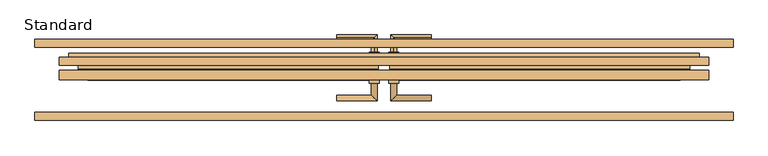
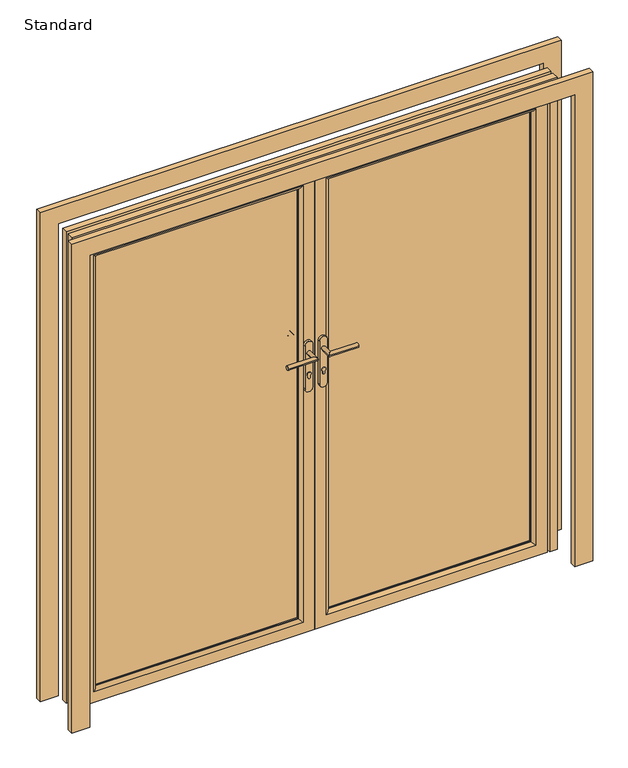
"""IFC4 building model written with IfcOpenShell, lengths in millimetres: door geometry, SMARTS_Visofold1000 : Standard."""

from ifc_helpers import new_model, si_unit, point, frame, frame_2d, origin, place, context, project, spatial, polyline, circle_curve, ellipse_curve, trimmed, segment, composite_curve, outline, extrude, faceted_brep, source, transform, mapped, element, save
from ifc_brep_helpers import plane_surface, cylinder_surface, advanced_brep


def standard_8fe2b8a2(model_context):
    return source(origin(), model_context, "Body", "SolidModel", [
        advanced_brep(
        [(30.0, 75.0, 1232.5996413), (30.0, 75.0, 1215.5996413), (30.0, 130.0, 1215.5996413), (30.0, 130.0, 1232.5996413), (145.0, 130.0, 1232.5996413), (145.0, 130.0, 1215.5996413)],
        [
            (0, 1, circle_curve(frame((30.0, 75.0, 1224.0996413), z_axis=(0.0, -1.0, 0.0), x_axis=(0.0, 0.0, -1.0)), 8.5)),
            (1, 0, circle_curve(frame((30.0, 75.0, 1224.0996413), z_axis=(0.0, -1.0, 0.0), x_axis=(0.0, 0.0, -1.0)), 8.5)),
            (1, 2),
            (2, 3, ellipse_curve(frame((30.0, 130.0, 1224.0996413), z_axis=(-0.7071067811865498, -0.7071067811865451, 0.0), x_axis=(0.7071067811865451, -0.70710678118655, 0.0)), 12.0208153, 8.5)),
            (3, 0),
            (3, 2, ellipse_curve(frame((30.0, 130.0, 1224.0996413), z_axis=(-0.7071067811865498, -0.7071067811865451, 0.0), x_axis=(0.7071067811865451, -0.70710678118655, 0.0)), 12.0208153, 8.5)),
            (4, 5, circle_curve(frame((145.0, 130.0, 1224.0996413), z_axis=(1.0, 0.0, 0.0), x_axis=(0.0, 0.0, -1.0)), 8.5)),
            (5, 4, circle_curve(frame((145.0, 130.0, 1224.0996413), z_axis=(1.0, 0.0, 0.0), x_axis=(0.0, 0.0, -1.0)), 8.5)),
            (2, 5),
            (4, 3),
        ],
        [
            plane_surface(frame((30.0, 75.0, 1224.0996413), z_axis=(0.0, -1.0, 0.0), x_axis=(0.0, 0.0, -1.0))),
            cylinder_surface(frame((30.0, 75.0, 1224.0996413), z_axis=(0.0, -1.0, 0.0), x_axis=(0.0, 0.0, -1.0)), 8.5),
            plane_surface(frame((145.0, 130.0, 1224.0996413), z_axis=(1.0, 0.0, 0.0), x_axis=(0.0, 0.0, -1.0))),
            cylinder_surface(frame((30.0, 130.0, 1224.0996413), z_axis=(-1.0, 0.0, 0.0), x_axis=(0.0, 0.0, -1.0)), 8.5),
        ],
        [
            (0, [[1, 2]]),
            (1, [[-2, 3, 4, 5]]),
            (1, [[-1, -5, 6, -3]]),
            (2, [[7, 8]]),
            (3, [[-4, 9, -7, 10]]),
            (3, [[-6, -10, -8, -9]]),
        ],
    ),
        extrude(outline(composite_curve([segment(trimmed(circle_curve(frame_2d((1258.0996413, 30.0)), 16.0), [point((1258.0996413, 46.0))], [point((1258.0996413, 14.0))], False, "CARTESIAN"), True, "CONTINUOUS"), segment(polyline([(1258.0996413, 14.0), (1070.0996413, 14.0)]), True, "CONTINUOUS"), segment(trimmed(circle_curve(frame_2d((1070.0996413, 30.0)), 16.0), [point((1070.0996413, 14.0))], [point((1070.0996413, 46.0))], False, "CARTESIAN"), True, "CONTINUOUS"), segment(polyline([(1070.0996413, 46.0), (1258.0996413, 46.0)]), True, "CONTINUOUS")], self_intersect=False)), frame((0.0, 75.0, 0.0), z_axis=(0.0, 1.0, 0.0), x_axis=(0.0, 0.0, 1.0)), (0.0, 0.0, 1.0), 10.0),
        advanced_brep(
        [(38.5, 0.0, 1224.0996413), (21.5, 0.0, 1224.0996413), (38.5, -46.5, 1224.0996413), (21.5, -63.5, 1224.0996413), (145.0, -46.5, 1224.0996413), (145.0, -63.5, 1224.0996413)],
        [
            (0, 1, circle_curve(frame((30.0, 0.0, 1224.0996413), z_axis=(0.0, 1.0, 0.0), x_axis=(-1.0, 0.0, 0.0)), 8.5)),
            (1, 0, circle_curve(frame((30.0, 0.0, 1224.0996413), z_axis=(0.0, 1.0, 0.0), x_axis=(-1.0, 0.0, 0.0)), 8.5)),
            (0, 2),
            (2, 3, ellipse_curve(frame((30.0, -55.0, 1224.0996413), z_axis=(-0.7071067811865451, 0.7071067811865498, 0.0), x_axis=(0.7071067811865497, 0.7071067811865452, 0.0)), 12.0208153, 8.5)),
            (3, 1),
            (3, 2, ellipse_curve(frame((30.0, -55.0, 1224.0996413), z_axis=(-0.7071067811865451, 0.7071067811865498, 0.0), x_axis=(0.7071067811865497, 0.7071067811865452, 0.0)), 12.0208153, 8.5)),
            (4, 5, circle_curve(frame((145.0, -55.0, 1224.0996413), z_axis=(1.0, 0.0, 0.0), x_axis=(0.0, -1.0, 0.0)), 8.5)),
            (5, 4, circle_curve(frame((145.0, -55.0, 1224.0996413), z_axis=(1.0, 0.0, 0.0), x_axis=(0.0, -1.0, 0.0)), 8.5)),
            (2, 4),
            (5, 3),
        ],
        [
            plane_surface(frame((30.0, 0.0, 1224.0996413), z_axis=(0.0, 1.0, 0.0), x_axis=(0.0, 0.0, -1.0))),
            cylinder_surface(frame((30.0, 0.0, 1224.0996413), z_axis=(0.0, 1.0, 0.0), x_axis=(-1.0, 0.0, 0.0)), 8.5),
            plane_surface(frame((145.0, -55.0, 1224.0996413), z_axis=(1.0, 0.0, 0.0), x_axis=(0.0, 0.0, -1.0))),
            cylinder_surface(frame((30.0, -55.0, 1224.0996413), z_axis=(-1.0, 0.0, 0.0), x_axis=(0.0, -1.0, 0.0)), 8.5),
        ],
        [
            (0, [[1, 2]]),
            (1, [[-1, 3, 4, 5]]),
            (1, [[-2, -5, 6, -3]]),
            (2, [[7, 8]]),
            (3, [[-4, 9, -8, 10]]),
            (3, [[-6, -10, -7, -9]]),
        ],
    ),
        extrude(outline(composite_curve([segment(trimmed(circle_curve(frame_2d((1258.0996413, 30.0)), 16.0), [point((1258.0996413, 46.0))], [point((1258.0996413, 14.0))], False, "CARTESIAN"), True, "CONTINUOUS"), segment(polyline([(1258.0996413, 14.0), (1070.0996413, 14.0)]), True, "CONTINUOUS"), segment(trimmed(circle_curve(frame_2d((1070.0996413, 30.0)), 16.0), [point((1070.0996413, 14.0))], [point((1070.0996413, 46.0))], False, "CARTESIAN"), True, "CONTINUOUS"), segment(polyline([(1070.0996413, 46.0), (1258.0996413, 46.0)]), True, "CONTINUOUS")], self_intersect=False)), frame((0.0, -10.0, 0.0), z_axis=(0.0, 1.0, 0.0), x_axis=(0.0, 0.0, 1.0)), (0.0, 0.0, 1.0), 10.0),
        extrude(outline(composite_curve([segment(trimmed(circle_curve(frame_2d((1132.0996413, 30.0571906)), 8.5), [point((1125.1769586, 34.9893771))], [point((1125.27562, 24.9893771))], False, "CARTESIAN"), True, "CONTINUOUS"), segment(polyline([(1125.27562, 24.9893771), (1117.5996413, 24.9893771)]), True, "CONTINUOUS"), segment(trimmed(circle_curve(frame_2d((1117.5996413, 29.9893771)), 5.0), [point((1117.5996413, 24.9893771))], [point((1117.5996413, 34.9893771))], False, "CARTESIAN"), True, "CONTINUOUS"), segment(polyline([(1117.5996413, 34.9893771), (1125.1769586, 34.9893771)]), True, "CONTINUOUS")], self_intersect=False)), frame((0.0, 85.0, 0.0), z_axis=(0.0, 1.0, 0.0), x_axis=(0.0, 0.0, 1.0)), (0.0, 0.0, 1.0), 2.0),
        extrude(outline(composite_curve([segment(trimmed(circle_curve(frame_2d((1132.0996413, 30.0571906)), 8.5), [point((1125.1769586, 34.9893771))], [point((1125.27562, 24.9893771))], False, "CARTESIAN"), True, "CONTINUOUS"), segment(polyline([(1125.27562, 24.9893771), (1117.5996413, 24.9893771)]), True, "CONTINUOUS"), segment(trimmed(circle_curve(frame_2d((1117.5996413, 29.9893771)), 5.0), [point((1117.5996413, 24.9893771))], [point((1117.5996413, 34.9893771))], False, "CARTESIAN"), True, "CONTINUOUS"), segment(polyline([(1117.5996413, 34.9893771), (1125.1769586, 34.9893771)]), True, "CONTINUOUS")], self_intersect=False)), frame((0.0, -12.0, 0.0), z_axis=(0.0, 1.0, 0.0), x_axis=(0.0, 0.0, 1.0)), (0.0, 0.0, 1.0), 2.0),
        extrude(outline(polyline([(45.0, 45.0), (45.0, 915.0), (1955.0, 915.0), (1955.0, 45.0), (45.0, 45.0)]), holes=[polyline([(1939.5, 60.5), (1939.5, 899.5), (60.5, 899.5), (60.5, 60.5), (1939.5, 60.5)])]), frame((0.0, 17.4, 0.0), z_axis=(0.0, 1.0, 0.0), x_axis=(0.0, 0.0, 1.0)), (0.0, 0.0, 1.0), 35.0),
        faceted_brep([(0.0, 74.4, 0.0), (0.0, 52.4, 0.0), (0.0, 52.4, 2000.0), (0.0, 74.4, 2000.0), (60.5, 52.4, 60.5), (60.5, 74.4, 60.5), (60.5, 74.4, 1939.5), (60.5, 52.4, 1939.5), (960.0, 74.4, 0.0), (960.0, 52.4, 0.0), (960.0, 52.4, 2000.0), (960.0, 74.4, 2000.0), (899.5, 74.4, 1939.5), (899.5, 52.4, 1939.5), (899.5, 74.4, 60.5), (899.5, 52.4, 60.5), (17.8691481, 34.8, 17.8691481), (942.1308519, 34.8, 17.8691481), (942.1308519, 34.8, 1982.1308519), (17.8691481, 34.8, 1982.1308519), (45.0, 34.8, 1955.0), (915.0, 34.8, 1955.0), (915.0, 34.8, 45.0), (45.0, 34.8, 45.0), (17.8691481, 52.4, 17.8691481), (17.8691481, 52.4, 1982.1308519), (45.0, 52.4, 45.0), (45.0, 52.4, 1955.0), (942.1308519, 52.4, 1982.1308519), (915.0, 52.4, 1955.0), (942.1308519, 52.4, 17.8691481), (915.0, 52.4, 45.0)], [[[0, 1, 2, 3]], [[4, 5, 6, 7]], [[8, 9, 1, 0]], [[3, 2, 10, 11]], [[7, 6, 12, 13]], [[11, 10, 9, 8]], [[13, 12, 14, 15]], [[3, 11, 8, 0], [5, 14, 12, 6]], [[15, 14, 5, 4]], [[16, 17, 18, 19], [20, 21, 22, 23]], [[24, 16, 19, 25]], [[23, 26, 27, 20]], [[25, 19, 18, 28]], [[20, 27, 29, 21]], [[28, 18, 17, 30]], [[21, 29, 31, 22]], [[30, 17, 16, 24]], [[1, 9, 10, 2], [25, 28, 30, 24]], [[26, 31, 29, 27], [7, 13, 15, 4]], [[22, 31, 26, 23]]]),
        advanced_brep(
        [(60.5, 13.3, 60.5), (60.5, 17.4, 60.5), (60.5, 17.4, 1939.5), (60.5, 13.3, 1939.5), (0.0, 17.4, 0.0), (0.0, 0.0, 0.0), (0.0, 0.0, 2000.0), (0.0, 17.4, 2000.0), (899.5, 17.4, 1939.5), (899.5, 13.3, 1939.5), (960.0, 0.0, 2000.0), (960.0, 17.4, 2000.0), (899.5, 17.4, 60.5), (899.5, 13.3, 60.5), (960.0, 0.0, 0.0), (960.0, 17.4, 0.0), (47.2, 0.0, 1952.8), (912.8, 0.0, 1952.8), (912.8, 0.0, 47.2), (47.2, 0.0, 47.2), (17.8691481, 34.8, 17.8691481), (17.8691481, 17.4, 17.8691481), (17.8691481, 17.4, 1982.1308519), (17.8691481, 34.8, 1982.1308519), (942.1308519, 17.4, 1982.1308519), (942.1308519, 34.8, 1982.1308519), (942.1308519, 17.4, 17.8691481), (942.1308519, 34.8, 17.8691481), (45.0, 17.4, 45.0), (45.0, 34.8, 45.0), (45.0, 34.8, 1955.0), (45.0, 17.4, 1955.0), (915.0, 34.8, 1955.0), (915.0, 17.4, 1955.0), (915.0, 34.8, 45.0), (915.0, 17.4, 45.0)],
        [
            (0, 1),
            (1, 2),
            (2, 3),
            (3, 0),
            (4, 5),
            (5, 6),
            (6, 7),
            (7, 4),
            (2, 8),
            (8, 9),
            (9, 3),
            (6, 10),
            (10, 11),
            (11, 7),
            (8, 12),
            (12, 13),
            (13, 9),
            (10, 14),
            (14, 15),
            (15, 11),
            (12, 1),
            (0, 13),
            (5, 14),
            (16, 17),
            (17, 18),
            (18, 19),
            (19, 16),
            (4, 15),
            (19, 0, ellipse_curve(frame((47.2, 13.3, 47.2), z_axis=(-0.7071067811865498, 0.0, 0.7071067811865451), x_axis=(-0.7071067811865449, 0.0, -0.70710678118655)), 18.8090404, 13.3)),
            (3, 16, ellipse_curve(frame((47.2, 13.3, 1952.8), z_axis=(-0.7071067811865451, 0.0, -0.70710678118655), x_axis=(0.7071067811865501, 0.0, -0.7071067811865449)), 18.8090404, 13.3)),
            (9, 17, ellipse_curve(frame((912.8, 13.3, 1952.8), z_axis=(-0.7071067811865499, 0.0, 0.7071067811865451), x_axis=(-0.7071067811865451, 0.0, -0.70710678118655)), 18.8090404, 13.3)),
            (13, 18, ellipse_curve(frame((912.8, 13.3, 47.2), z_axis=(0.7071067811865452, 0.0, 0.7071067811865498), x_axis=(-0.7071067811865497, 0.0, 0.7071067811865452)), 18.8090404, 13.3)),
            (20, 21),
            (21, 22),
            (22, 23),
            (23, 20),
            (22, 24),
            (24, 25),
            (25, 23),
            (24, 26),
            (26, 27),
            (27, 25),
            (21, 26),
            (20, 27),
            (28, 29),
            (29, 30),
            (30, 31),
            (31, 28),
            (30, 32),
            (32, 33),
            (33, 31),
            (32, 34),
            (34, 35),
            (35, 33),
            (34, 29),
            (28, 35),
        ],
        [
            plane_surface(frame((60.5, 17.4, 60.5), z_axis=(1.0, 0.0, 0.0), x_axis=(0.0, 0.0, 1.0))),
            plane_surface(frame((0.0, 0.0, 0.0), z_axis=(-1.0, 0.0, 0.0), x_axis=(0.0, 0.0, 1.0))),
            plane_surface(frame((60.5, 17.4, 1939.5), z_axis=(0.0, 0.0, -1.0), x_axis=(1.0, 0.0, 0.0))),
            plane_surface(frame((0.0, 0.0, 2000.0), z_axis=(0.0, 0.0, 1.0), x_axis=(1.0, 0.0, 0.0))),
            plane_surface(frame((899.5, 17.4, 1939.5), z_axis=(-1.0, 0.0, 0.0), x_axis=(0.0, 0.0, -1.0))),
            plane_surface(frame((960.0, 0.0, 2000.0), z_axis=(1.0, 0.0, 0.0), x_axis=(0.0, 0.0, -1.0))),
            plane_surface(frame((899.5, 17.4, 60.5), z_axis=(0.0, 0.0, 1.0), x_axis=(-1.0, 0.0, 0.0))),
            plane_surface(frame((912.8, 0.0, 47.2), z_axis=(0.0, -1.0, 0.0), x_axis=(-1.0, 0.0, 0.0))),
            plane_surface(frame((960.0, 0.0, 0.0), z_axis=(0.0, 0.0, -1.0), x_axis=(-1.0, 0.0, 0.0))),
            cylinder_surface(frame((47.2, 13.3, 0.0), z_axis=(0.0, 0.0, -1.0), x_axis=(0.0, 1.0, 0.0)), 13.3),
            cylinder_surface(frame((0.0, 13.3, 1952.8), z_axis=(-1.0, 0.0, 0.0), x_axis=(0.0, 1.0, 0.0)), 13.3),
            cylinder_surface(frame((912.8, 13.3, 2000.0), z_axis=(0.0, 0.0, 1.0), x_axis=(0.0, 1.0, 0.0)), 13.3),
            cylinder_surface(frame((960.0, 13.3, 47.2), z_axis=(1.0, 0.0, 0.0), x_axis=(0.0, 1.0, 0.0)), 13.3),
            plane_surface(frame((17.8691481, 17.4, 17.8691481), z_axis=(-1.0, 0.0, 0.0), x_axis=(0.0, 0.0, 1.0))),
            plane_surface(frame((17.8691481, 17.4, 1982.1308519), z_axis=(0.0, 0.0, 1.0), x_axis=(1.0, 0.0, 0.0))),
            plane_surface(frame((942.1308519, 17.4, 1982.1308519), z_axis=(1.0, 0.0, 0.0), x_axis=(0.0, 0.0, -1.0))),
            plane_surface(frame((960.0, 17.4, 0.0), z_axis=(0.0, 1.0, 0.0), x_axis=(-1.0, 0.0, 0.0))),
            plane_surface(frame((942.1308519, 17.4, 17.8691481), z_axis=(0.0, 0.0, -1.0), x_axis=(-1.0, 0.0, 0.0))),
            plane_surface(frame((45.0, 34.8, 45.0), z_axis=(1.0, 0.0, 0.0), x_axis=(0.0, 0.0, 1.0))),
            plane_surface(frame((45.0, 34.8, 1955.0), z_axis=(0.0, 0.0, -1.0), x_axis=(1.0, 0.0, 0.0))),
            plane_surface(frame((915.0, 34.8, 1955.0), z_axis=(-1.0, 0.0, 0.0), x_axis=(0.0, 0.0, -1.0))),
            plane_surface(frame((915.0, 34.8, 45.0), z_axis=(0.0, 0.0, 1.0), x_axis=(-1.0, 0.0, 0.0))),
            plane_surface(frame((915.0, 17.4, 45.0), z_axis=(0.0, 1.0, 0.0), x_axis=(-1.0, 0.0, 0.0))),
            plane_surface(frame((942.1308519, 34.8, 17.8691481), z_axis=(0.0, 1.0, 0.0), x_axis=(-1.0, 0.0, 0.0))),
        ],
        [
            (0, [[1, 2, 3, 4]]),
            (1, [[5, 6, 7, 8]]),
            (2, [[-3, 9, 10, 11]]),
            (3, [[-7, 12, 13, 14]]),
            (4, [[-10, 15, 16, 17]]),
            (5, [[-13, 18, 19, 20]]),
            (6, [[-16, 21, -1, 22]]),
            (7, [[23, -18, -12, -6], [24, 25, 26, 27]]),
            (8, [[-19, -23, -5, 28]]),
            (9, [[29, -4, 30, -27]]),
            (10, [[-30, -11, 31, -24]]),
            (11, [[-31, -17, 32, -25]]),
            (12, [[-32, -22, -29, -26]]),
            (13, [[33, 34, 35, 36]]),
            (14, [[-35, 37, 38, 39]]),
            (15, [[-38, 40, 41, 42]]),
            (16, [[-14, -20, -28, -8], [43, -40, -37, -34]]),
            (17, [[-41, -43, -33, 44]]),
            (18, [[45, 46, 47, 48]]),
            (19, [[-47, 49, 50, 51]]),
            (20, [[-50, 52, 53, 54]]),
            (21, [[-53, 55, -45, 56]]),
            (22, [[-51, -54, -56, -48], [-21, -15, -9, -2]]),
            (23, [[-39, -42, -44, -36], [-55, -52, -49, -46]]),
        ],
    ),
        extrude(outline(polyline([(60.5, 50.1484783), (899.5, 50.1484783), (899.5, 21.4), (60.5, 21.4), (60.5, 50.1484783)])), frame((0.0, 0.0, 60.5), z_axis=(0.0, 0.0, 1.0), x_axis=(1.0, 0.0, 0.0)), (0.0, 0.0, 1.0), 1879.0),
        advanced_brep(
        [(-30.0, 75.0, 1232.5996413), (-30.0, 75.0, 1215.5996413), (-30.0, 130.0, 1232.5996413), (-30.0, 130.0, 1215.5996413), (-145.0, 130.0, 1232.5996413), (-145.0, 130.0, 1215.5996413)],
        [
            (0, 1, circle_curve(frame((-30.0, 75.0, 1224.0996413), z_axis=(0.0, -1.0, 0.0), x_axis=(0.0, 0.0, -1.0)), 8.5)),
            (1, 0, circle_curve(frame((-30.0, 75.0, 1224.0996413), z_axis=(0.0, -1.0, 0.0), x_axis=(0.0, 0.0, -1.0)), 8.5)),
            (0, 2),
            (2, 3, ellipse_curve(frame((-30.0, 130.0, 1224.0996413), z_axis=(0.7071067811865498, -0.7071067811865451, 0.0), x_axis=(-0.7071067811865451, -0.70710678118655, 0.0)), 12.0208153, 8.5)),
            (3, 1),
            (3, 2, ellipse_curve(frame((-30.0, 130.0, 1224.0996413), z_axis=(0.7071067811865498, -0.7071067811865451, 0.0), x_axis=(-0.7071067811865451, -0.70710678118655, 0.0)), 12.0208153, 8.5)),
            (4, 5, circle_curve(frame((-145.0, 130.0, 1224.0996413), z_axis=(-1.0, 0.0, 0.0), x_axis=(0.0, 0.0, -1.0)), 8.5)),
            (5, 4, circle_curve(frame((-145.0, 130.0, 1224.0996413), z_axis=(-1.0, 0.0, 0.0), x_axis=(0.0, 0.0, -1.0)), 8.5)),
            (2, 4),
            (5, 3),
        ],
        [
            plane_surface(frame((-30.0, 75.0, 1224.0996413), z_axis=(0.0, -1.0, 0.0), x_axis=(0.0, 0.0, -1.0))),
            cylinder_surface(frame((-30.0, 75.0, 1224.0996413), z_axis=(0.0, -1.0, 0.0), x_axis=(0.0, 0.0, -1.0)), 8.5),
            plane_surface(frame((-145.0, 130.0, 1224.0996413), z_axis=(-1.0, 0.0, 0.0), x_axis=(0.0, 0.0, -1.0))),
            cylinder_surface(frame((-30.0, 130.0, 1224.0996413), z_axis=(1.0, 0.0, 0.0), x_axis=(0.0, 0.0, -1.0)), 8.5),
        ],
        [
            (0, [[1, 2]]),
            (1, [[3, 4, 5, -1]]),
            (1, [[-5, 6, -3, -2]]),
            (2, [[7, 8]]),
            (3, [[9, -8, 10, -4]]),
            (3, [[-10, -7, -9, -6]]),
        ],
    ),
        extrude(outline(composite_curve([segment(polyline([(1258.0996413, -46.0), (1070.0996413, -46.0)]), True, "CONTINUOUS"), segment(trimmed(circle_curve(frame_2d((1070.0996413, -30.0)), 16.0), [point((1070.0996413, -46.0))], [point((1070.0996413, -14.0))], False, "CARTESIAN"), True, "CONTINUOUS"), segment(polyline([(1070.0996413, -14.0), (1258.0996413, -14.0)]), True, "CONTINUOUS"), segment(trimmed(circle_curve(frame_2d((1258.0996413, -30.0)), 16.0), [point((1258.0996413, -14.0))], [point((1258.0996413, -46.0))], False, "CARTESIAN"), True, "CONTINUOUS")], self_intersect=False)), frame((0.0, 75.0, 0.0), z_axis=(0.0, 1.0, 0.0), x_axis=(0.0, 0.0, 1.0)), (0.0, 0.0, 1.0), 10.0),
        advanced_brep(
        [(-38.5, 0.0, 1224.0996413), (-21.5, 0.0, 1224.0996413), (-21.5, -63.5, 1224.0996413), (-38.5, -46.5, 1224.0996413), (-145.0, -46.5, 1224.0996413), (-145.0, -63.5, 1224.0996413)],
        [
            (0, 1, circle_curve(frame((-30.0, 0.0, 1224.0996413), z_axis=(0.0, 1.0, 0.0), x_axis=(1.0, 0.0, 0.0)), 8.5)),
            (1, 0, circle_curve(frame((-30.0, 0.0, 1224.0996413), z_axis=(0.0, 1.0, 0.0), x_axis=(1.0, 0.0, 0.0)), 8.5)),
            (1, 2),
            (2, 3, ellipse_curve(frame((-30.0, -55.0, 1224.0996413), z_axis=(0.7071067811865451, 0.7071067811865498, 0.0), x_axis=(-0.7071067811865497, 0.7071067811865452, 0.0)), 12.0208153, 8.5)),
            (3, 0),
            (3, 2, ellipse_curve(frame((-30.0, -55.0, 1224.0996413), z_axis=(0.7071067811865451, 0.7071067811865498, 0.0), x_axis=(-0.7071067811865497, 0.7071067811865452, 0.0)), 12.0208153, 8.5)),
            (4, 5, circle_curve(frame((-145.0, -55.0, 1224.0996413), z_axis=(-1.0, 0.0, 0.0), x_axis=(0.0, -1.0, 0.0)), 8.5)),
            (5, 4, circle_curve(frame((-145.0, -55.0, 1224.0996413), z_axis=(-1.0, 0.0, 0.0), x_axis=(0.0, -1.0, 0.0)), 8.5)),
            (2, 5),
            (4, 3),
        ],
        [
            plane_surface(frame((-30.0, 0.0, 1224.0996413), z_axis=(0.0, 1.0, 0.0), x_axis=(0.0, 0.0, -1.0))),
            cylinder_surface(frame((-30.0, 0.0, 1224.0996413), z_axis=(0.0, 1.0, 0.0), x_axis=(1.0, 0.0, 0.0)), 8.5),
            plane_surface(frame((-145.0, -55.0, 1224.0996413), z_axis=(-1.0, 0.0, 0.0), x_axis=(0.0, 0.0, -1.0))),
            cylinder_surface(frame((-30.0, -55.0, 1224.0996413), z_axis=(1.0, 0.0, 0.0), x_axis=(0.0, -1.0, 0.0)), 8.5),
        ],
        [
            (0, [[1, 2]]),
            (1, [[3, 4, 5, -2]]),
            (1, [[-5, 6, -3, -1]]),
            (2, [[7, 8]]),
            (3, [[9, -7, 10, -4]]),
            (3, [[-10, -8, -9, -6]]),
        ],
    ),
        extrude(outline(composite_curve([segment(polyline([(1258.0996413, -46.0), (1070.0996413, -46.0)]), True, "CONTINUOUS"), segment(trimmed(circle_curve(frame_2d((1070.0996413, -30.0)), 16.0), [point((1070.0996413, -46.0))], [point((1070.0996413, -14.0))], False, "CARTESIAN"), True, "CONTINUOUS"), segment(polyline([(1070.0996413, -14.0), (1258.0996413, -14.0)]), True, "CONTINUOUS"), segment(trimmed(circle_curve(frame_2d((1258.0996413, -30.0)), 16.0), [point((1258.0996413, -14.0))], [point((1258.0996413, -46.0))], False, "CARTESIAN"), True, "CONTINUOUS")], self_intersect=False)), frame((0.0, -10.0, 0.0), z_axis=(0.0, 1.0, 0.0), x_axis=(0.0, 0.0, 1.0)), (0.0, 0.0, 1.0), 10.0),
        extrude(outline(composite_curve([segment(polyline([(1125.1769586, -34.9893771), (1117.5996413, -34.9893771)]), True, "CONTINUOUS"), segment(trimmed(circle_curve(frame_2d((1117.5996413, -29.9893771)), 5.0), [point((1117.5996413, -34.9893771))], [point((1117.5996413, -24.9893771))], False, "CARTESIAN"), True, "CONTINUOUS"), segment(polyline([(1117.5996413, -24.9893771), (1125.27562, -24.9893771)]), True, "CONTINUOUS"), segment(trimmed(circle_curve(frame_2d((1132.0996413, -30.0571906)), 8.5), [point((1125.27562, -24.9893771))], [point((1125.1769586, -34.9893771))], False, "CARTESIAN"), True, "CONTINUOUS")], self_intersect=False)), frame((0.0, 85.0, 0.0), z_axis=(0.0, 1.0, 0.0), x_axis=(0.0, 0.0, 1.0)), (0.0, 0.0, 1.0), 2.0),
        extrude(outline(composite_curve([segment(polyline([(1125.1769586, -34.9893771), (1117.5996413, -34.9893771)]), True, "CONTINUOUS"), segment(trimmed(circle_curve(frame_2d((1117.5996413, -29.9893771)), 5.0), [point((1117.5996413, -34.9893771))], [point((1117.5996413, -24.9893771))], False, "CARTESIAN"), True, "CONTINUOUS"), segment(polyline([(1117.5996413, -24.9893771), (1125.27562, -24.9893771)]), True, "CONTINUOUS"), segment(trimmed(circle_curve(frame_2d((1132.0996413, -30.0571906)), 8.5), [point((1125.27562, -24.9893771))], [point((1125.1769586, -34.9893771))], False, "CARTESIAN"), True, "CONTINUOUS")], self_intersect=False)), frame((0.0, -12.0, 0.0), z_axis=(0.0, 1.0, 0.0), x_axis=(0.0, 0.0, 1.0)), (0.0, 0.0, 1.0), 2.0),
        extrude(outline(polyline([(45.0, -45.0), (1955.0, -45.0), (1955.0, -915.0), (45.0, -915.0), (45.0, -45.0)]), holes=[polyline([(1939.5, -60.5), (60.5, -60.5), (60.5, -899.5), (1939.5, -899.5), (1939.5, -60.5)])]), frame((0.0, 17.4, 0.0), z_axis=(0.0, 1.0, 0.0), x_axis=(0.0, 0.0, 1.0)), (0.0, 0.0, 1.0), 35.0),
        faceted_brep([(0.0, 74.4, 0.0), (0.0, 74.4, 2000.0), (0.0, 52.4, 2000.0), (0.0, 52.4, 0.0), (-60.5, 52.4, 60.5), (-60.5, 52.4, 1939.5), (-60.5, 74.4, 1939.5), (-60.5, 74.4, 60.5), (-960.0, 74.4, 0.0), (-960.0, 52.4, 0.0), (-960.0, 74.4, 2000.0), (-960.0, 52.4, 2000.0), (-899.5, 52.4, 1939.5), (-899.5, 74.4, 1939.5), (-899.5, 52.4, 60.5), (-899.5, 74.4, 60.5), (-17.8691481, 34.8, 17.8691481), (-17.8691481, 34.8, 1982.1308519), (-942.1308519, 34.8, 1982.1308519), (-942.1308519, 34.8, 17.8691481), (-45.0, 34.8, 1955.0), (-45.0, 34.8, 45.0), (-915.0, 34.8, 45.0), (-915.0, 34.8, 1955.0), (-17.8691481, 52.4, 17.8691481), (-17.8691481, 52.4, 1982.1308519), (-45.0, 52.4, 1955.0), (-45.0, 52.4, 45.0), (-942.1308519, 52.4, 1982.1308519), (-915.0, 52.4, 1955.0), (-942.1308519, 52.4, 17.8691481), (-915.0, 52.4, 45.0)], [[[0, 1, 2, 3]], [[4, 5, 6, 7]], [[8, 0, 3, 9]], [[1, 10, 11, 2]], [[5, 12, 13, 6]], [[10, 8, 9, 11]], [[12, 14, 15, 13]], [[1, 0, 8, 10], [7, 6, 13, 15]], [[14, 4, 7, 15]], [[16, 17, 18, 19], [20, 21, 22, 23]], [[24, 25, 17, 16]], [[21, 20, 26, 27]], [[25, 28, 18, 17]], [[20, 23, 29, 26]], [[28, 30, 19, 18]], [[23, 22, 31, 29]], [[30, 24, 16, 19]], [[3, 2, 11, 9], [25, 24, 30, 28]], [[27, 26, 29, 31], [5, 4, 14, 12]], [[22, 21, 27, 31]]]),
        advanced_brep(
        [(-60.5, 13.3, 60.5), (-60.5, 13.3, 1939.5), (-60.5, 17.4, 1939.5), (-60.5, 17.4, 60.5), (0.0, 17.4, 0.0), (0.0, 17.4, 2000.0), (0.0, 0.0, 2000.0), (0.0, 0.0, 0.0), (-899.5, 13.3, 1939.5), (-899.5, 17.4, 1939.5), (-960.0, 17.4, 2000.0), (-960.0, 0.0, 2000.0), (-899.5, 13.3, 60.5), (-899.5, 17.4, 60.5), (-960.0, 17.4, 0.0), (-960.0, 0.0, 0.0), (-47.2, 0.0, 1952.8), (-47.2, 0.0, 47.2), (-912.8, 0.0, 47.2), (-912.8, 0.0, 1952.8), (-17.8691481, 34.8, 17.8691481), (-17.8691481, 34.8, 1982.1308519), (-17.8691481, 17.4, 1982.1308519), (-17.8691481, 17.4, 17.8691481), (-942.1308519, 34.8, 1982.1308519), (-942.1308519, 17.4, 1982.1308519), (-942.1308519, 34.8, 17.8691481), (-942.1308519, 17.4, 17.8691481), (-45.0, 17.4, 45.0), (-45.0, 17.4, 1955.0), (-45.0, 34.8, 1955.0), (-45.0, 34.8, 45.0), (-915.0, 17.4, 1955.0), (-915.0, 34.8, 1955.0), (-915.0, 17.4, 45.0), (-915.0, 34.8, 45.0)],
        [
            (0, 1),
            (1, 2),
            (2, 3),
            (3, 0),
            (4, 5),
            (5, 6),
            (6, 7),
            (7, 4),
            (1, 8),
            (8, 9),
            (9, 2),
            (5, 10),
            (10, 11),
            (11, 6),
            (8, 12),
            (12, 13),
            (13, 9),
            (10, 14),
            (14, 15),
            (15, 11),
            (12, 0),
            (3, 13),
            (15, 7),
            (16, 17),
            (17, 18),
            (18, 19),
            (19, 16),
            (14, 4),
            (16, 1, ellipse_curve(frame((-47.2, 13.3, 1952.8), z_axis=(0.7071067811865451, 0.0, -0.70710678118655), x_axis=(-0.7071067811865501, 0.0, -0.7071067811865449)), 18.8090404, 13.3)),
            (0, 17, ellipse_curve(frame((-47.2, 13.3, 47.2), z_axis=(0.7071067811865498, 0.0, 0.7071067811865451), x_axis=(0.7071067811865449, 0.0, -0.70710678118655)), 18.8090404, 13.3)),
            (19, 8, ellipse_curve(frame((-912.8, 13.3, 1952.8), z_axis=(0.7071067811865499, 0.0, 0.7071067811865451), x_axis=(0.7071067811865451, 0.0, -0.70710678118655)), 18.8090404, 13.3)),
            (18, 12, ellipse_curve(frame((-912.8, 13.3, 47.2), z_axis=(-0.7071067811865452, 0.0, 0.7071067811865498), x_axis=(0.7071067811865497, 0.0, 0.7071067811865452)), 18.8090404, 13.3)),
            (20, 21),
            (21, 22),
            (22, 23),
            (23, 20),
            (21, 24),
            (24, 25),
            (25, 22),
            (24, 26),
            (26, 27),
            (27, 25),
            (27, 23),
            (26, 20),
            (28, 29),
            (29, 30),
            (30, 31),
            (31, 28),
            (29, 32),
            (32, 33),
            (33, 30),
            (32, 34),
            (34, 35),
            (35, 33),
            (34, 28),
            (31, 35),
        ],
        [
            plane_surface(frame((-60.5, 17.4, 60.5), z_axis=(-1.0, 0.0, 0.0), x_axis=(0.0, 0.0, 1.0))),
            plane_surface(frame((0.0, 0.0, 0.0), z_axis=(1.0, 0.0, 0.0), x_axis=(0.0, 0.0, 1.0))),
            plane_surface(frame((-60.5, 17.4, 1939.5), z_axis=(0.0, 0.0, -1.0), x_axis=(-1.0, 0.0, 0.0))),
            plane_surface(frame((0.0, 0.0, 2000.0), z_axis=(0.0, 0.0, 1.0), x_axis=(-1.0, 0.0, 0.0))),
            plane_surface(frame((-899.5, 17.4, 1939.5), z_axis=(1.0, 0.0, 0.0), x_axis=(0.0, 0.0, -1.0))),
            plane_surface(frame((-960.0, 0.0, 2000.0), z_axis=(-1.0, 0.0, 0.0), x_axis=(0.0, 0.0, -1.0))),
            plane_surface(frame((-899.5, 17.4, 60.5), z_axis=(0.0, 0.0, 1.0), x_axis=(1.0, 0.0, 0.0))),
            plane_surface(frame((-912.8, 0.0, 47.2), z_axis=(0.0, -1.0, 0.0), x_axis=(1.0, 0.0, 0.0))),
            plane_surface(frame((-960.0, 0.0, 0.0), z_axis=(0.0, 0.0, -1.0), x_axis=(1.0, 0.0, 0.0))),
            cylinder_surface(frame((-47.2, 13.3, 0.0), z_axis=(0.0, 0.0, -1.0), x_axis=(0.0, 1.0, 0.0)), 13.3),
            cylinder_surface(frame((0.0, 13.3, 1952.8), z_axis=(1.0, 0.0, 0.0), x_axis=(0.0, 1.0, 0.0)), 13.3),
            cylinder_surface(frame((-912.8, 13.3, 2000.0), z_axis=(0.0, 0.0, 1.0), x_axis=(0.0, 1.0, 0.0)), 13.3),
            cylinder_surface(frame((-960.0, 13.3, 47.2), z_axis=(-1.0, 0.0, 0.0), x_axis=(0.0, 1.0, 0.0)), 13.3),
            plane_surface(frame((-17.8691481, 17.4, 17.8691481), z_axis=(1.0, 0.0, 0.0), x_axis=(0.0, 0.0, 1.0))),
            plane_surface(frame((-17.8691481, 17.4, 1982.1308519), z_axis=(0.0, 0.0, 1.0), x_axis=(-1.0, 0.0, 0.0))),
            plane_surface(frame((-942.1308519, 17.4, 1982.1308519), z_axis=(-1.0, 0.0, 0.0), x_axis=(0.0, 0.0, -1.0))),
            plane_surface(frame((-960.0, 17.4, 0.0), z_axis=(0.0, 1.0, 0.0), x_axis=(1.0, 0.0, 0.0))),
            plane_surface(frame((-942.1308519, 17.4, 17.8691481), z_axis=(0.0, 0.0, -1.0), x_axis=(1.0, 0.0, 0.0))),
            plane_surface(frame((-45.0, 34.8, 45.0), z_axis=(-1.0, 0.0, 0.0), x_axis=(0.0, 0.0, 1.0))),
            plane_surface(frame((-45.0, 34.8, 1955.0), z_axis=(0.0, 0.0, -1.0), x_axis=(-1.0, 0.0, 0.0))),
            plane_surface(frame((-915.0, 34.8, 1955.0), z_axis=(1.0, 0.0, 0.0), x_axis=(0.0, 0.0, -1.0))),
            plane_surface(frame((-915.0, 34.8, 45.0), z_axis=(0.0, 0.0, 1.0), x_axis=(1.0, 0.0, 0.0))),
            plane_surface(frame((-915.0, 17.4, 45.0), z_axis=(0.0, 1.0, 0.0), x_axis=(1.0, 0.0, 0.0))),
            plane_surface(frame((-942.1308519, 34.8, 17.8691481), z_axis=(0.0, 1.0, 0.0), x_axis=(1.0, 0.0, 0.0))),
        ],
        [
            (0, [[1, 2, 3, 4]]),
            (1, [[5, 6, 7, 8]]),
            (2, [[9, 10, 11, -2]]),
            (3, [[12, 13, 14, -6]]),
            (4, [[15, 16, 17, -10]]),
            (5, [[18, 19, 20, -13]]),
            (6, [[21, -4, 22, -16]]),
            (7, [[-7, -14, -20, 23], [24, 25, 26, 27]]),
            (8, [[28, -8, -23, -19]]),
            (9, [[-24, 29, -1, 30]]),
            (10, [[-27, 31, -9, -29]]),
            (11, [[-26, 32, -15, -31]]),
            (12, [[-25, -30, -21, -32]]),
            (13, [[33, 34, 35, 36]]),
            (14, [[37, 38, 39, -34]]),
            (15, [[40, 41, 42, -38]]),
            (16, [[-5, -28, -18, -12], [-35, -39, -42, 43]]),
            (17, [[44, -36, -43, -41]]),
            (18, [[45, 46, 47, 48]]),
            (19, [[49, 50, 51, -46]]),
            (20, [[52, 53, 54, -50]]),
            (21, [[55, -48, 56, -53]]),
            (22, [[-45, -55, -52, -49], [-3, -11, -17, -22]]),
            (23, [[-33, -44, -40, -37], [-47, -51, -54, -56]]),
        ],
    ),
        extrude(outline(polyline([(-60.5, 50.1484783), (-60.5, 21.4), (-899.5, 21.4), (-899.5, 50.1484783), (-60.5, 50.1484783)])), frame((0.0, 0.0, 60.5), z_axis=(0.0, 0.0, 1.0), x_axis=(1.0, 0.0, 0.0)), (0.0, 0.0, 1.0), 1879.0),
        extrude(outline(polyline([(2058.6516063, -1000.0), (2058.6516063, 1000.0), (0.0, 1000.0), (0.0, 1075.0), (2133.6516063, 1075.0), (2133.6516063, -1075.0), (0.0, -1075.0), (0.0, -1000.0), (2058.6516063, -1000.0)])), frame((0.0, 100.0, 0.0), z_axis=(0.0, 1.0, 0.0), x_axis=(0.0, 0.0, 1.0)), (0.0, 0.0, 1.0), 25.0),
        extrude(outline(polyline([(2133.6516063, -1075.0), (0.0, -1075.0), (0.0, -1000.0), (2058.6516063, -1000.0), (2058.6516063, 1000.0), (0.0, 1000.0), (0.0, 1075.0), (2133.6516063, 1075.0), (2133.6516063, -1075.0)])), frame((0.0, -125.0, 0.0), z_axis=(0.0, 1.0, 0.0), x_axis=(0.0, 0.0, 1.0)), (0.0, 0.0, 1.0), 25.0),
        extrude(outline(polyline([(0.0, 968.8), (0.0, 1000.0), (2058.6516063, 1000.0), (2058.6516063, -1000.0), (0.0, -1000.0), (0.0, -968.8), (2027.4516063, -968.8), (2027.4516063, 968.8), (0.0, 968.8)])), frame((0.0, 0.0, 0.0), z_axis=(0.0, 1.0, 0.0), x_axis=(0.0, 0.0, 1.0)), (0.0, 0.0, 1.0), 29.65),
        faceted_brep([(1000.0, 44.85, 0.0), (968.8, 44.85, 0.0), (968.8, 77.4, 0.0), (948.3, 77.4, 0.0), (948.3, 81.9, 0.0), (970.6, 81.9, 0.0), (970.6, 70.0, 0.0), (1000.0, 70.0, 0.0), (1000.0, 44.85, 2058.6516063), (-1000.0, 44.85, 2058.6516063), (-1000.0, 44.85, 0.0), (-968.8, 44.85, 0.0), (-968.8, 44.85, 2027.4516063), (968.8, 44.85, 2027.4516063), (968.8, 77.4, 2027.4516063), (-968.8, 77.4, 2027.4516063), (-968.8, 77.4, 0.0), (-948.3, 77.4, 0.0), (-948.3, 77.4, 2006.9516063), (948.3, 77.4, 2006.9516063), (948.3, 81.9, 2006.9516063), (-948.3, 81.9, 2006.9516063), (-948.3, 81.9, 0.0), (-970.6, 81.9, 0.0), (-970.6, 81.9, 2029.2516063), (970.6, 81.9, 2029.2516063), (970.6, 70.0, 2029.2516063), (-970.6, 70.0, 2029.2516063), (-970.6, 70.0, 0.0), (-1000.0, 70.0, 0.0), (-1000.0, 70.0, 2058.6516063), (1000.0, 70.0, 2058.6516063)], [[[0, 1, 2, 3, 4, 5, 6, 7]], [[1, 0, 8, 9, 10, 11, 12, 13]], [[2, 1, 13, 14]], [[3, 2, 14, 15, 16, 17, 18, 19]], [[4, 3, 19, 20]], [[5, 4, 20, 21, 22, 23, 24, 25]], [[6, 5, 25, 26]], [[7, 6, 26, 27, 28, 29, 30, 31]], [[0, 7, 31, 8]], [[10, 29, 28, 23, 22, 17, 16, 11]], [[9, 30, 29, 10]], [[27, 24, 23, 28]], [[21, 18, 17, 22]], [[15, 12, 11, 16]], [[8, 31, 30, 9]], [[14, 13, 12, 15]], [[26, 25, 24, 27]], [[20, 19, 18, 21]]]),
    ])


if __name__ == "__main__":
    model = new_model("IFC4")
    model_context = context("Model", 3, world=origin())
    ifc_project = project(units=[si_unit("LENGTHUNIT", "METRE", prefix="MILLI")], contexts=[model_context])
    site = spatial("IfcSite", under=ifc_project)
    building = spatial("IfcBuilding", under=site)
    placement = place(None, origin())
    standard_shape = standard_8fe2b8a2(model_context)
    element("IfcDoor", 1, ObjectType="SMARTS_Visofold1000 : Standard", at=placement, inside=building, context=model_context, shape_type="MappedRepresentation", body=[
        mapped(standard_shape, transform((0.0, 0.0, 0.0), x_axis=(1.0, 0.0, 0.0), y_axis=(0.0, 1.0, 0.0), z_axis=(0.0, 0.0, 1.0))),
    ])
    save(model, "model.ifc")
